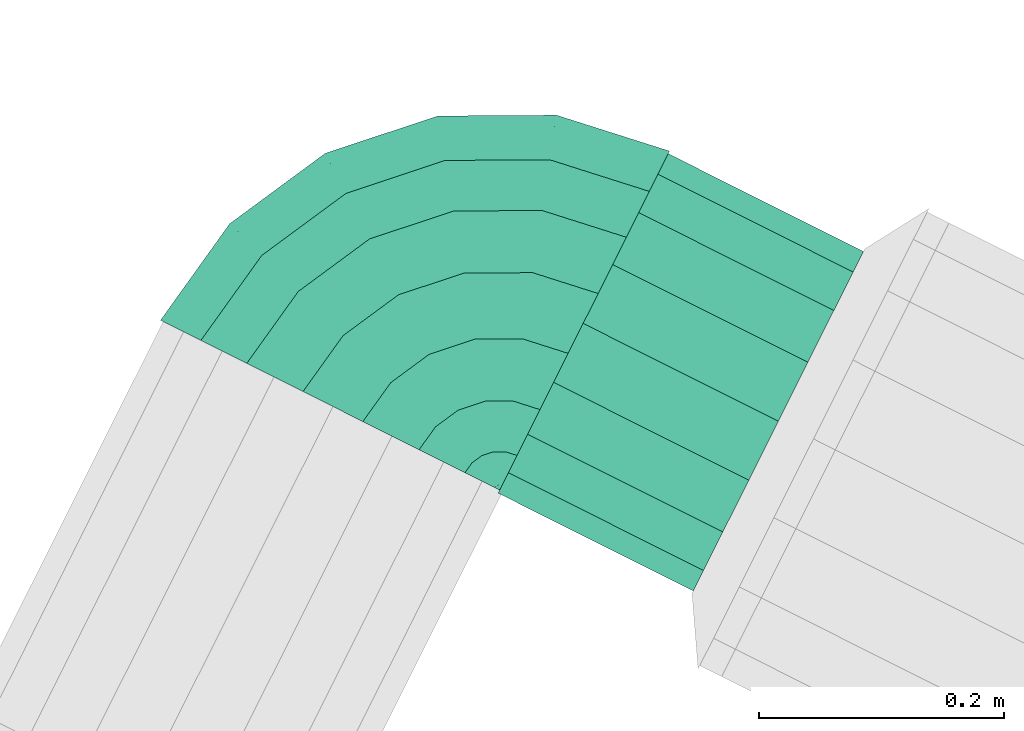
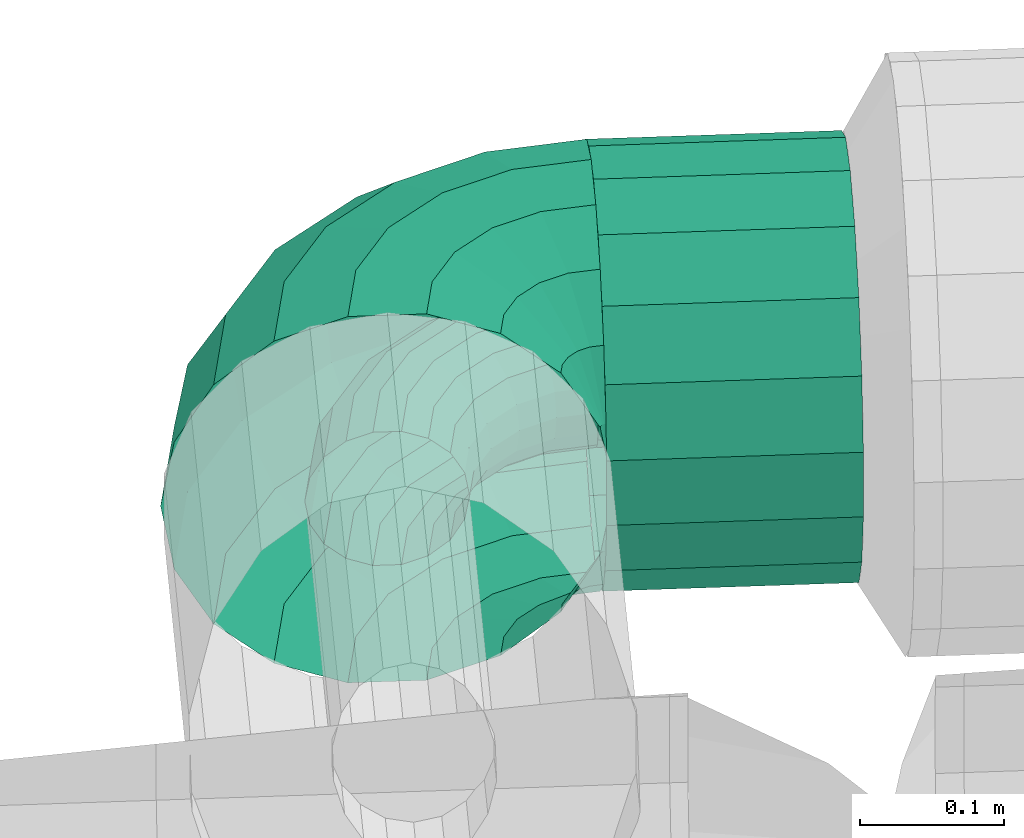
# One storey, part 33 of 152: 2 flow segments.
"""IFC2X3 building model written with IfcOpenShell, lengths in metres."""

from ifc_helpers import new_model, si_unit, derived_unit, direction, frame, origin, place, context, subcontext, project, spatial, face_set, surface_model, source, transform, mapped, material, type_object, type_shapes, element, save


model = new_model("IFC2X3")

# Units and contexts
model_context = context("Model", 3, precision=5.2338327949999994e-05, world=origin(), true_north=direction((0.0, 1.0)))
body_context = subcontext(model_context, "Body", "Model", "MODEL_VIEW")
ifc_project = project(units=[si_unit("LENGTHUNIT", "METRE"), si_unit("AREAUNIT", "SQUARE_METRE"), si_unit("VOLUMEUNIT", "CUBIC_METRE"), si_unit("MASSUNIT", "GRAM", prefix="KILO"), si_unit("PLANEANGLEUNIT", "RADIAN"), derived_unit("THERMALTRANSMITTANCEUNIT", [(si_unit("MASSUNIT", "GRAM", prefix="KILO"), 1), (si_unit("THERMODYNAMICTEMPERATUREUNIT", "KELVIN"), -1), (si_unit("TIMEUNIT", "SECOND"), -3)])], contexts=[model_context])

# Site, building, storey
site_placement = place(None, frame((0.0, 0.0, 0.0), z_axis=(0.0, 0.0, 1.0), x_axis=(0.8939966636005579, -0.4480736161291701, 0.0)))
site = spatial("IfcSite", under=ifc_project, at=site_placement, Name="Default", CompositionType="ELEMENT")
building_placement = place(site_placement, origin())
building = spatial("IfcBuilding", under=site, at=building_placement, CompositionType="ELEMENT")
storey_placement = place(building_placement, frame((0.0, 0.0, 2.7499999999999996)))
storey = spatial("IfcBuildingStorey", under=building, at=storey_placement, Name="1. Obergeschoss", CompositionType="ELEMENT", Elevation=2.7499999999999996)

# Flow segments
ifc_material = material(Name="IfcSurfaceStyle #9317")
distribution_element_type_1 = type_object("IfcDistributionElementType", Name="Rohrbogen 267376:Rohrbogen 267376", material=ifc_material)
shared_shape_1 = source(origin(), body_context, "Body", "SurfaceModel", [
    surface_model("IfcFaceBasedSurfaceModel", [(12.489014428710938, 6.430055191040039, 5.63564089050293), (12.478777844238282, 6.365424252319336, 5.63564089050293), (12.482224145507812, 6.365424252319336, 5.655187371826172), (12.492292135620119, 6.428990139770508, 5.655187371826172), (12.51872191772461, 6.488359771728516, 5.63564089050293), (12.521510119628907, 6.48633373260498, 5.655187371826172), (12.564992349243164, 6.534630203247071, 5.63564089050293), (12.567018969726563, 6.531842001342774, 5.655187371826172), (12.62329692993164, 6.564337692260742, 5.63564089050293), (12.624361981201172, 6.561059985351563, 5.655187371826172), (12.687927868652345, 6.574574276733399, 5.63564089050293), (12.687927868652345, 6.571127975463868, 5.655187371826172), (12.501731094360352, 6.4259234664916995, 5.672375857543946), (12.492149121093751, 6.365424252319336, 5.672375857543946), (12.52953869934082, 6.48050094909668, 5.672375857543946), (12.572852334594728, 6.52381342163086, 5.672375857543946), (12.627429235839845, 6.5516216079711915, 5.672375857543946), (12.687927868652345, 6.561204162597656, 5.672375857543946), (12.507352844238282, 6.365424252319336, 5.6851343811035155), (12.516190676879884, 6.421225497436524, 5.6851343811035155), (12.541840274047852, 6.4715637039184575, 5.6851343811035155), (12.581788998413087, 6.511512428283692, 5.6851343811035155), (12.632127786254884, 6.537161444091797, 5.6851343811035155), (12.687927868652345, 6.545999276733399, 5.6851343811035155), (12.526004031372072, 6.365424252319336, 5.691922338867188), (12.533929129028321, 6.415461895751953, 5.691922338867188), (12.556928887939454, 6.460601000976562, 5.691922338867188), (12.592751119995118, 6.49642381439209, 5.691922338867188), (12.637891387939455, 6.519423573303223, 5.691922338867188), (12.687927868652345, 6.527348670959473, 5.691922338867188), (12.552805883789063, 6.409328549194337, 5.691922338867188), (12.545851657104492, 6.365424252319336, 5.691922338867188), (12.572986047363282, 6.448934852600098, 5.691922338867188), (12.604417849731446, 6.480366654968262, 5.691922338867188), (12.644024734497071, 6.500546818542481, 5.691922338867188), (12.687927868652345, 6.507500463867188, 5.691922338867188), (12.564502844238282, 6.365424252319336, 5.6851343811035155), (12.5705443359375, 6.403564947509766, 5.6851343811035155), (12.588074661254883, 6.437972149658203, 5.6851343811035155), (12.615381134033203, 6.4652774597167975, 5.6851343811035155), (12.649787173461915, 6.4828083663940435, 5.6851343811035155), (12.687927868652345, 6.488849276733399, 5.6851343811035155), (12.585003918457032, 6.398866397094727, 5.672375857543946), (12.57970773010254, 6.365424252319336, 5.672375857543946), (12.600376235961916, 6.42903490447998, 5.672375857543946), (12.624317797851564, 6.45297646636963, 5.672375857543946), (12.654485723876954, 6.468348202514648, 5.672375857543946), (12.687927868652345, 6.473644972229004, 5.672375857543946), (12.594442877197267, 6.3957997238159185, 5.655187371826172), (12.58963154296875, 6.365424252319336, 5.655187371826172), (12.608404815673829, 6.423201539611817, 5.655187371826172), (12.630151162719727, 6.444947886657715, 5.655187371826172), (12.657552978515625, 6.458909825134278, 5.655187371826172), (12.687927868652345, 6.463721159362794, 5.655187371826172), (12.593077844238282, 6.365424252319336, 5.63564089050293), (12.597720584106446, 6.394734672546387, 5.63564089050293), (12.611193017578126, 6.421176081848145, 5.63564089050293), (12.6321766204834, 6.442159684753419, 5.63564089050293), (12.658618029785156, 6.455632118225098, 5.63564089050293), (12.687927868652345, 6.460274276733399, 5.63564089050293), (12.594442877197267, 6.3957997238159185, 5.616094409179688), (12.58963154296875, 6.365424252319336, 5.616094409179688), (12.608404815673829, 6.423201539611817, 5.616094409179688), (12.630151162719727, 6.444947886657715, 5.616094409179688), (12.657552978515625, 6.458909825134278, 5.616094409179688), (12.687927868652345, 6.463721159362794, 5.616094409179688), (12.57970773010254, 6.365424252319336, 5.598905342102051), (12.585003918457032, 6.398866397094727, 5.598905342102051), (12.600376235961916, 6.42903490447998, 5.598905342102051), (12.624317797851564, 6.45297646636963, 5.598905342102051), (12.654485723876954, 6.468348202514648, 5.598905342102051), (12.687927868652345, 6.473644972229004, 5.598905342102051), (12.564502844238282, 6.365424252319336, 5.586147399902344), (12.5705443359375, 6.403564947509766, 5.586147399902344), (12.588074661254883, 6.437972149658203, 5.586147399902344), (12.615381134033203, 6.4652774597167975, 5.586147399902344), (12.649787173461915, 6.4828083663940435, 5.586147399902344), (12.687927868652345, 6.488849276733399, 5.586147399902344), (12.552805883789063, 6.409328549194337, 5.579358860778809), (12.545851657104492, 6.365424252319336, 5.579358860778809), (12.572986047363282, 6.448934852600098, 5.579358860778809), (12.604417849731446, 6.480366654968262, 5.579358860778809), (12.644024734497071, 6.500546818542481, 5.579358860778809), (12.687927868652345, 6.507500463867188, 5.579358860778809), (12.526004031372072, 6.365424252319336, 5.579358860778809), (12.533929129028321, 6.415461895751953, 5.579358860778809), (12.556928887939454, 6.460601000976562, 5.579358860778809), (12.592751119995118, 6.49642381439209, 5.579358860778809), (12.637891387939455, 6.519423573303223, 5.579358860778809), (12.687927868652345, 6.527348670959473, 5.579358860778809), (12.516190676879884, 6.421225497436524, 5.586147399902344), (12.507352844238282, 6.365424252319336, 5.586147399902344), (12.541840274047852, 6.4715637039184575, 5.586147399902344), (12.581788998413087, 6.511512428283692, 5.586147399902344), (12.632127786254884, 6.537161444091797, 5.586147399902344), (12.687927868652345, 6.545999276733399, 5.586147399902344), (12.492149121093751, 6.365424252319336, 5.598905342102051), (12.501731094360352, 6.4259234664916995, 5.598905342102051), (12.52953869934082, 6.48050094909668, 5.598905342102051), (12.572852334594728, 6.52381342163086, 5.598905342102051), (12.627429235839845, 6.5516216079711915, 5.598905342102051), (12.687927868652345, 6.561204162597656, 5.598905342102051), (12.492292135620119, 6.428990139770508, 5.616094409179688), (12.482224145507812, 6.365424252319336, 5.616094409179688), (12.521510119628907, 6.48633373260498, 5.616094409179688), (12.567018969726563, 6.531842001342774, 5.616094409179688), (12.393908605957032, 6.460956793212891, 5.63564089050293), (12.378778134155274, 6.365424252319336, 5.63564089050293), (12.388255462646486, 6.365424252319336, 5.689389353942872), (12.402922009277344, 6.458028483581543, 5.689389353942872), (12.437821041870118, 6.5471381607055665, 5.63564089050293), (12.44548801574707, 6.541567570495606, 5.689389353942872), (12.506214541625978, 6.615532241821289, 5.63564089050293), (12.511785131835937, 6.607864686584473, 5.689389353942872), (12.59239532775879, 6.659443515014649, 5.63564089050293), (12.595324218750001, 6.6504301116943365, 5.689389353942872), (12.687927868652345, 6.67457456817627, 5.63564089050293), (12.687927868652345, 6.665097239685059, 5.689389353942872), (12.428876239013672, 6.449595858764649, 5.736655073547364), (12.415544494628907, 6.365424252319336, 5.736655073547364), (12.467564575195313, 6.525527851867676, 5.736655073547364), (12.527824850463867, 6.585787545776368, 5.736655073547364), (12.603757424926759, 6.624477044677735, 5.736655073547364), (12.687927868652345, 6.637808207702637, 5.736655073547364), (12.46863776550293, 6.43667629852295, 5.771736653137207), (12.457353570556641, 6.365424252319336, 5.771736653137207), (12.501389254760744, 6.500953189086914, 5.771736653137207), (12.552400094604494, 6.5519634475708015, 5.771736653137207), (12.616676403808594, 6.58471435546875, 5.771736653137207), (12.687927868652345, 6.595999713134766, 5.771736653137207), (12.517413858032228, 6.420827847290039, 5.790403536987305), (12.50863881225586, 6.365424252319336, 5.790403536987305), (12.542880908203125, 6.470807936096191, 5.790403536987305), (12.582544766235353, 6.510472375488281, 5.790403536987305), (12.632525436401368, 6.535938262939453, 5.790403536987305), (12.687927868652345, 6.544713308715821, 5.790403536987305), (12.569321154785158, 6.403962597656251, 5.790403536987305), (12.563216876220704, 6.365424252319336, 5.790403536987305), (12.587035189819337, 6.4387279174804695, 5.790403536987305), (12.614624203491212, 6.46631809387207, 5.790403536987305), (12.649390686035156, 6.48403212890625, 5.790403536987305), (12.687927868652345, 6.490135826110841, 5.790403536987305), (12.61450328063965, 6.365424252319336, 5.771736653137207), (12.618097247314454, 6.38811414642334, 5.771736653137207), (12.628525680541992, 6.408582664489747, 5.771736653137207), (12.644770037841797, 6.424826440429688, 5.771736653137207), (12.665238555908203, 6.435256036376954, 5.771736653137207), (12.687927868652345, 6.438849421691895, 5.771736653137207), (12.657859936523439, 6.375194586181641, 5.736655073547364), (12.656312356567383, 6.365424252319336, 5.736655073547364), (12.662350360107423, 6.384008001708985, 5.736655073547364), (12.669344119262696, 6.391002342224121, 5.736655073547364), (12.678158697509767, 6.395493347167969, 5.736655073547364), (12.687927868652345, 6.397040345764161, 5.736655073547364), (12.683601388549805, 6.365424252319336, 5.689389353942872), (12.68381300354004, 6.366761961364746, 5.689389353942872), (12.684426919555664, 6.367968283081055, 5.689389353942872), (12.685385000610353, 6.368925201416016, 5.689389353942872), (12.686590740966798, 6.369539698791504, 5.689389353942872), (12.687927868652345, 6.369751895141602, 5.689389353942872), (12.687927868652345, 6.365424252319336, 5.66484666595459), (12.687927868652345, 6.366167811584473, 5.665514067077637), (12.687927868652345, 6.365424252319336, 5.60643511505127), (12.687927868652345, 6.366167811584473, 5.60576713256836), (12.68381300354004, 6.366761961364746, 5.581892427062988), (12.683601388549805, 6.365424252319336, 5.581892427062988), (12.684426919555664, 6.367968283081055, 5.581892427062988), (12.685385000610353, 6.368925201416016, 5.581892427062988), (12.686590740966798, 6.369539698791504, 5.581892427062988), (12.687927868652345, 6.369751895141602, 5.581892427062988), (12.656312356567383, 6.365424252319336, 5.5346267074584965), (12.657859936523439, 6.375194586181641, 5.5346267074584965), (12.662350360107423, 6.384008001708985, 5.5346267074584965), (12.669344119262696, 6.391002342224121, 5.5346267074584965), (12.678158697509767, 6.395493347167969, 5.5346267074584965), (12.687927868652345, 6.397040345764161, 5.5346267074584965), (12.61450328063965, 6.365424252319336, 5.499545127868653), (12.618097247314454, 6.38811414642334, 5.499545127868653), (12.628525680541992, 6.408582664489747, 5.499545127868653), (12.644770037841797, 6.424826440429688, 5.499545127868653), (12.665238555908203, 6.435256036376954, 5.499545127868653), (12.687927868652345, 6.438849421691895, 5.499545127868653), (12.563216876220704, 6.365424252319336, 5.480878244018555), (12.569321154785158, 6.403962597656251, 5.480878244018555), (12.587035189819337, 6.4387279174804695, 5.480878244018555), (12.614624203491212, 6.46631809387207, 5.480878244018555), (12.649390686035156, 6.48403212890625, 5.480878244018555), (12.687927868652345, 6.490135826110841, 5.480878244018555), (12.50863881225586, 6.365424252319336, 5.480878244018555), (12.517413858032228, 6.420827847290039, 5.480878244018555), (12.542880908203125, 6.470807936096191, 5.480878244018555), (12.582544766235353, 6.510472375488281, 5.480878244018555), (12.632525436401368, 6.535938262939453, 5.480878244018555), (12.687927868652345, 6.544713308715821, 5.480878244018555), (12.457353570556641, 6.365424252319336, 5.499545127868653), (12.46863776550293, 6.43667629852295, 5.499545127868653), (12.501389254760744, 6.500953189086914, 5.499545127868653), (12.552400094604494, 6.5519634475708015, 5.499545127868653), (12.616676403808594, 6.58471435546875, 5.499545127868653), (12.687927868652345, 6.595999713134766, 5.499545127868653), (12.415544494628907, 6.365424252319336, 5.5346267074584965), (12.428876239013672, 6.449595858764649, 5.5346267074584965), (12.467564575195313, 6.525527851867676, 5.5346267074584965), (12.527824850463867, 6.585787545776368, 5.5346267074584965), (12.603757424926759, 6.624477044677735, 5.5346267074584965), (12.687927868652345, 6.637808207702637, 5.5346267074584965), (12.388255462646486, 6.365424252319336, 5.581892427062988), (12.402922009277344, 6.458028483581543, 5.581892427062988), (12.44548801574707, 6.541567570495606, 5.581892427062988), (12.511785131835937, 6.607864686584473, 5.581892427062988), (12.595324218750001, 6.6504301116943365, 5.581892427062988), (12.687927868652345, 6.665097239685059, 5.581892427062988), (12.624361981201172, 6.561059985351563, 5.616094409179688), (12.687927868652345, 6.571127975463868, 5.616094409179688)], [face_set([[[0, 1, 2]], [[2, 3, 0]], [[4, 0, 5]], [[3, 5, 0]], [[6, 4, 7]], [[5, 7, 4]], [[8, 6, 7]], [[7, 9, 8]], [[10, 8, 11]], [[9, 11, 8]], [[3, 2, 12]], [[13, 12, 2]], [[5, 3, 14]], [[12, 14, 3]], [[7, 5, 15]], [[14, 15, 5]], [[9, 7, 16]], [[15, 16, 7]], [[11, 9, 17]], [[16, 17, 9]], [[12, 13, 18]], [[18, 19, 12]], [[14, 12, 20]], [[19, 20, 12]], [[15, 14, 21]], [[20, 21, 14]], [[16, 15, 21]], [[21, 22, 16]], [[17, 16, 23]], [[22, 23, 16]], [[19, 18, 24]], [[24, 25, 19]], [[20, 19, 25]], [[25, 26, 20]], [[21, 20, 26]], [[26, 27, 21]], [[22, 21, 27]], [[27, 28, 22]], [[23, 22, 28]], [[28, 29, 23]], [[25, 24, 30]], [[31, 30, 24]], [[26, 25, 32]], [[30, 32, 25]], [[27, 26, 33]], [[32, 33, 26]], [[28, 27, 33]], [[33, 34, 28]], [[29, 28, 35]], [[34, 35, 28]], [[30, 31, 36]], [[36, 37, 30]], [[32, 30, 38]], [[37, 38, 30]], [[33, 32, 38]], [[38, 39, 33]], [[34, 33, 40]], [[39, 40, 33]], [[35, 34, 41]], [[40, 41, 34]], [[37, 36, 42]], [[43, 42, 36]], [[38, 37, 44]], [[42, 44, 37]], [[39, 38, 45]], [[44, 45, 38]], [[40, 39, 46]], [[45, 46, 39]], [[41, 40, 47]], [[46, 47, 40]], [[42, 43, 48]], [[49, 48, 43]], [[44, 42, 48]], [[48, 50, 44]], [[45, 44, 50]], [[50, 51, 45]], [[46, 45, 51]], [[51, 52, 46]], [[47, 46, 52]], [[52, 53, 47]], [[48, 49, 54]], [[54, 55, 48]], [[50, 48, 56]], [[55, 56, 48]], [[51, 50, 56]], [[56, 57, 51]], [[52, 51, 57]], [[57, 58, 52]], [[53, 52, 58]], [[58, 59, 53]], [[55, 54, 60]], [[61, 60, 54]], [[56, 55, 60]], [[60, 62, 56]], [[57, 56, 62]], [[62, 63, 57]], [[58, 57, 64]], [[63, 64, 57]], [[59, 58, 65]], [[64, 65, 58]], [[60, 61, 66]], [[66, 67, 60]], [[62, 60, 68]], [[67, 68, 60]], [[63, 62, 69]], [[68, 69, 62]], [[64, 63, 69]], [[69, 70, 64]], [[65, 64, 71]], [[70, 71, 64]], [[67, 66, 72]], [[72, 73, 67]], [[68, 67, 73]], [[73, 74, 68]], [[69, 68, 75]], [[74, 75, 68]], [[70, 69, 76]], [[75, 76, 69]], [[71, 70, 76]], [[76, 77, 71]], [[73, 72, 78]], [[79, 78, 72]], [[74, 73, 78]], [[78, 80, 74]], [[75, 74, 81]], [[80, 81, 74]], [[76, 75, 81]], [[81, 82, 76]], [[77, 76, 82]], [[82, 83, 77]], [[78, 79, 84]], [[84, 85, 78]], [[80, 78, 85]], [[85, 86, 80]], [[81, 80, 86]], [[86, 87, 81]], [[82, 81, 88]], [[87, 88, 81]], [[83, 82, 88]], [[88, 89, 83]], [[85, 84, 90]], [[91, 90, 84]], [[86, 85, 92]], [[90, 92, 85]], [[87, 86, 93]], [[92, 93, 86]], [[88, 87, 94]], [[93, 94, 87]], [[89, 88, 95]], [[94, 95, 88]], [[90, 91, 96]], [[96, 97, 90]], [[92, 90, 97]], [[97, 98, 92]], [[93, 92, 98]], [[98, 99, 93]], [[94, 93, 100]], [[99, 100, 93]], [[95, 94, 100]], [[100, 101, 95]], [[97, 96, 102]], [[103, 102, 96]], [[98, 97, 104]], [[102, 104, 97]], [[99, 98, 105]], [[104, 105, 98]], [[102, 103, 1]], [[1, 0, 102]], [[104, 102, 0]], [[0, 4, 104]], [[105, 104, 4]], [[4, 6, 105]], [[106, 107, 108]], [[108, 109, 106]], [[110, 106, 111]], [[109, 111, 106]], [[112, 110, 113]], [[111, 113, 110]], [[114, 112, 113]], [[113, 115, 114]], [[116, 114, 115]], [[115, 117, 116]], [[109, 108, 118]], [[119, 118, 108]], [[111, 109, 120]], [[118, 120, 109]], [[113, 111, 121]], [[120, 121, 111]], [[115, 113, 121]], [[121, 122, 115]], [[117, 115, 122]], [[122, 123, 117]], [[118, 119, 124]], [[125, 124, 119]], [[120, 118, 124]], [[124, 126, 120]], [[121, 120, 126]], [[126, 127, 121]], [[122, 121, 127]], [[127, 128, 122]], [[123, 122, 128]], [[128, 129, 123]], [[124, 125, 130]], [[131, 130, 125]], [[126, 124, 132]], [[130, 132, 124]], [[127, 126, 132]], [[132, 133, 127]], [[128, 127, 134]], [[133, 134, 127]], [[129, 128, 135]], [[134, 135, 128]], [[130, 131, 136]], [[137, 136, 131]], [[132, 130, 136]], [[136, 138, 132]], [[133, 132, 138]], [[138, 139, 133]], [[134, 133, 139]], [[139, 140, 134]], [[135, 134, 140]], [[140, 141, 135]], [[136, 137, 142]], [[142, 143, 136]], [[138, 136, 144]], [[143, 144, 136]], [[139, 138, 144]], [[144, 145, 139]], [[140, 139, 145]], [[145, 146, 140]], [[141, 140, 146]], [[146, 147, 141]], [[143, 142, 148]], [[149, 148, 142]], [[144, 143, 150]], [[148, 150, 143]], [[145, 144, 151]], [[150, 151, 144]], [[146, 145, 151]], [[151, 152, 146]], [[147, 146, 153]], [[152, 153, 146]], [[148, 149, 154]], [[154, 155, 148]], [[150, 148, 156]], [[155, 156, 148]], [[151, 150, 156]], [[156, 157, 151]], [[152, 151, 157]], [[157, 158, 152]], [[153, 152, 158]], [[158, 159, 153]], [[160, 155, 161]], [[160, 161, 154]], [[155, 154, 161]], [[156, 155, 160]], [[157, 156, 160]], [[158, 157, 160]], [[159, 158, 160]], [[162, 163, 164]], [[165, 164, 163]], [[163, 162, 165]], [[164, 166, 162]], [[162, 166, 167]], [[167, 168, 162]], [[168, 169, 162]], [[164, 165, 170]], [[170, 171, 164]], [[166, 164, 171]], [[171, 172, 166]], [[167, 166, 173]], [[172, 173, 166]], [[168, 167, 174]], [[173, 174, 167]], [[169, 168, 175]], [[174, 175, 168]], [[171, 170, 176]], [[176, 177, 171]], [[172, 171, 177]], [[177, 178, 172]], [[173, 172, 178]], [[178, 179, 173]], [[174, 173, 180]], [[179, 180, 173]], [[175, 174, 180]], [[180, 181, 175]], [[177, 176, 182]], [[182, 183, 177]], [[178, 177, 184]], [[183, 184, 177]], [[179, 178, 185]], [[184, 185, 178]], [[180, 179, 186]], [[185, 186, 179]], [[181, 180, 186]], [[186, 187, 181]], [[183, 182, 188]], [[188, 189, 183]], [[184, 183, 189]], [[189, 190, 184]], [[185, 184, 191]], [[190, 191, 184]], [[186, 185, 192]], [[191, 192, 185]], [[187, 186, 193]], [[192, 193, 186]], [[189, 188, 194]], [[194, 195, 189]], [[190, 189, 195]], [[195, 196, 190]], [[191, 190, 197]], [[196, 197, 190]], [[192, 191, 197]], [[197, 198, 192]], [[193, 192, 198]], [[198, 199, 193]], [[195, 194, 200]], [[200, 201, 195]], [[196, 195, 202]], [[201, 202, 195]], [[197, 196, 203]], [[202, 203, 196]], [[198, 197, 204]], [[203, 204, 197]], [[199, 198, 205]], [[204, 205, 198]], [[201, 200, 206]], [[206, 207, 201]], [[202, 201, 207]], [[207, 208, 202]], [[203, 202, 208]], [[208, 209, 203]], [[204, 203, 210]], [[209, 210, 203]], [[205, 204, 211]], [[210, 211, 204]], [[207, 206, 107]], [[107, 106, 207]], [[208, 207, 110]], [[106, 110, 207]], [[209, 208, 112]], [[110, 112, 208]], [[210, 209, 114]], [[112, 114, 209]], [[211, 210, 116]], [[114, 116, 210]], [[100, 99, 212]], [[105, 212, 99]], [[101, 100, 213]], [[212, 213, 100]], [[212, 105, 6]], [[6, 8, 212]], [[213, 212, 8]], [[8, 10, 213]]])]),
])
type_shapes(distribution_element_type_1, [shared_shape_1])
flow_segment_1_placement = place(storey_placement, frame((0.0, 0.0, -2.7499999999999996)))
element("IfcFlowSegment", 1, at=flow_segment_1_placement, inside=storey, type_object=distribution_element_type_1, material=ifc_material, Name="Rohrbogen", ObjectType="Rohrbogen", context=body_context, shape_type="MappedRepresentation", body=[
    mapped(shared_shape_1, transform((0.0, 0.0, 0.0), scale=1.0)),
])
distribution_element_type_2 = type_object("IfcDistributionElementType", Name="Stahlrohr nach DIN 2448 267422:Stahlrohr nach DIN 2448 267422", material=ifc_material)
shared_shape_2 = source(origin(), body_context, "Body", "SurfaceModel", [
    surface_model("IfcFaceBasedSurfaceModel", [(12.865928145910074, 6.517424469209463, 5.578490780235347), (12.865928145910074, 6.497878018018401, 5.581937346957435), (12.687928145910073, 6.497878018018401, 5.581937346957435), (12.687928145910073, 6.517424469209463, 5.578490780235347), (12.865928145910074, 6.480689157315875, 5.5918613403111), (12.687928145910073, 6.480689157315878, 5.591861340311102), (12.865928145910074, 6.4679311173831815, 5.607065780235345), (12.687928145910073, 6.467931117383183, 5.60706578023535), (12.865928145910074, 6.461142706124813, 5.6257167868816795), (12.687928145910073, 6.461142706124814, 5.625716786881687), (12.865928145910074, 6.4611427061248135, 5.645564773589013), (12.687928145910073, 6.461142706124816, 5.645564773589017), (12.865928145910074, 6.467931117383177, 5.6642157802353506), (12.687928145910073, 6.467931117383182, 5.6642157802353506), (12.865928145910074, 6.480689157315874, 5.679420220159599), (12.687928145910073, 6.480689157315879, 5.679420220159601), (12.865928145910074, 6.497878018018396, 5.689344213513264), (12.687928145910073, 6.497878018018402, 5.689344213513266), (12.865928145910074, 6.517424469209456, 5.692790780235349), (12.687928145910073, 6.517424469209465, 5.692790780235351), (12.865928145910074, 6.536970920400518, 5.689344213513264), (12.687928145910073, 6.536970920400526, 5.689344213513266), (12.865928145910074, 6.554159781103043, 5.679420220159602), (12.687928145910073, 6.554159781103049, 5.679420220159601), (12.865928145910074, 6.56691782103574, 5.664215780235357), (12.687928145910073, 6.566917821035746, 5.66421578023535), (12.865928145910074, 6.573706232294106, 5.645564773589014), (12.687928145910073, 6.5737062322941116, 5.645564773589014), (12.865928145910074, 6.573706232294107, 5.625716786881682), (12.687928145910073, 6.5737062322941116, 5.625716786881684), (12.865928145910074, 6.5669178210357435, 5.60706578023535), (12.687928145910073, 6.566917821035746, 5.607065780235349), (12.865928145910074, 6.554159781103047, 5.591861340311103), (12.687928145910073, 6.554159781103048, 5.5918613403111), (12.865928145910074, 6.536970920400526, 5.581937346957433), (12.687928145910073, 6.536970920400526, 5.581937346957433), (12.865928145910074, 6.51742446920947, 5.478490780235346), (12.865928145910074, 6.4636760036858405, 5.487968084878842), (12.687928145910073, 6.463676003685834, 5.487968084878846), (12.687928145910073, 6.517424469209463, 5.47849078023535), (12.865928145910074, 6.416410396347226, 5.515256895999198), (12.687928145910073, 6.416410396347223, 5.515256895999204), (12.865928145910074, 6.381328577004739, 5.557065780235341), (12.687928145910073, 6.381328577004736, 5.5570657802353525), (12.865928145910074, 6.362661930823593, 5.608351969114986), (12.687928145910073, 6.362661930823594, 5.608351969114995), (12.865928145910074, 6.362661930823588, 5.662929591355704), (12.687928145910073, 6.362661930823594, 5.662929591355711), (12.865928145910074, 6.381328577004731, 5.7142157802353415), (12.687928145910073, 6.38132857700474, 5.714215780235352), (12.865928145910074, 6.416410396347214, 5.75602466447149), (12.687928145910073, 6.416410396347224, 5.756024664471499), (12.865928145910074, 6.4636760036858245, 5.783313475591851), (12.687928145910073, 6.463676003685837, 5.783313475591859), (12.865928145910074, 6.517424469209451, 5.792790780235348), (12.687928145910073, 6.517424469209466, 5.792790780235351), (12.865928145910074, 6.571172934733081, 5.783313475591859), (12.687928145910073, 6.571172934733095, 5.783313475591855), (12.865928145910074, 6.618438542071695, 5.756024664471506), (12.687928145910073, 6.618438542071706, 5.7560246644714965), (12.865928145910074, 6.653520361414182, 5.714215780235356), (12.687928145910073, 6.653520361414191, 5.714215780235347), (12.865928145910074, 6.672187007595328, 5.6629295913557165), (12.687928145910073, 6.6721870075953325, 5.662929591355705), (12.865928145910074, 6.67218700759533, 5.608351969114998), (12.687928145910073, 6.6721870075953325, 5.608351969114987), (12.865928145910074, 6.6535203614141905, 5.557065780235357), (12.687928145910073, 6.653520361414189, 5.557065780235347), (12.865928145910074, 6.618438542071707, 5.515256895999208), (12.687928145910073, 6.6184385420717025, 5.5152568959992), (12.865928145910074, 6.571172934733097, 5.487968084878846), (12.687928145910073, 6.571172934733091, 5.487968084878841)], [face_set([[[0, 1, 2, 3]], [[1, 4, 5, 2]], [[4, 6, 7, 5]], [[6, 8, 9, 7]], [[8, 10, 11, 9]], [[10, 12, 13, 11]], [[12, 14, 15, 13]], [[14, 16, 17, 15]], [[16, 18, 19, 17]], [[18, 20, 21, 19]], [[20, 22, 23, 21]], [[22, 24, 25, 23]], [[24, 26, 27, 25]], [[26, 28, 29, 27]], [[28, 30, 31, 29]], [[30, 32, 33, 31]], [[32, 34, 35, 33]], [[34, 0, 3, 35]], [[36, 37, 38, 39]], [[37, 40, 41, 38]], [[40, 42, 43, 41]], [[42, 44, 45, 43]], [[44, 46, 47, 45]], [[46, 48, 49, 47]], [[48, 50, 51, 49]], [[50, 52, 53, 51]], [[52, 54, 55, 53]], [[54, 56, 57, 55]], [[56, 58, 59, 57]], [[58, 60, 61, 59]], [[60, 62, 63, 61]], [[62, 64, 65, 63]], [[64, 66, 67, 65]], [[66, 68, 69, 67]], [[68, 70, 71, 69]], [[70, 36, 39, 71]]])]),
])
type_shapes(distribution_element_type_2, [shared_shape_2])
flow_segment_2_placement = place(storey_placement, frame((0.0, 0.0, -2.7499999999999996)))
element("IfcFlowSegment", 2, at=flow_segment_2_placement, inside=storey, type_object=distribution_element_type_2, material=ifc_material, Name="Stahlrohr nach DIN 2448", ObjectType="Stahlrohr nach DIN 2448", context=body_context, shape_type="MappedRepresentation", body=[
    mapped(shared_shape_2, transform((0.0, 0.0, 0.0), scale=1.0)),
])

save(model, "model.ifc")
